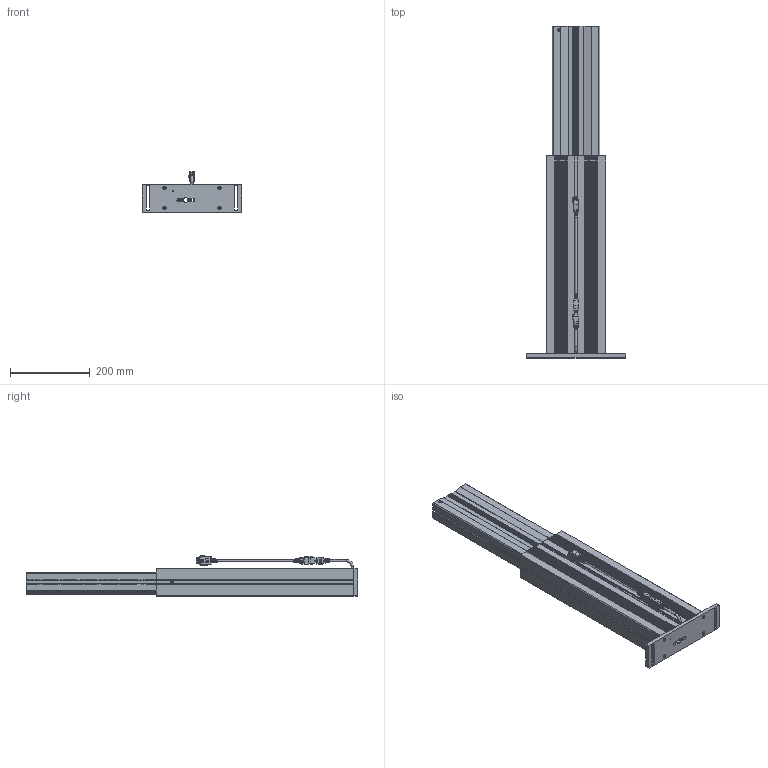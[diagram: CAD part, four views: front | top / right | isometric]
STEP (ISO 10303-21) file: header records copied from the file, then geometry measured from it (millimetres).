
FILE_DESCRIPTION(/* description */ ('Unknown'),/* implementation_level */ '2;1');
FILE_NAME(/* name */ '902.00003_05-Ausgefahren',/* time_stamp */ '2022-01-25T17:51:49+01:00',/* author */ ('Unknown'),/* organization */ ('Unknown'),/* preprocessor_version */ 'ST-DEVELOPER v18.1',/* originating_system */ 'Solid Edge',/* authorisation */ 'Unknown');
FILE_SCHEMA (('AUTOMOTIVE_DESIGN {1 0 10303 214 3 1 1}'));
Products named in the file (12): 902.00003; 126.00138; 119.00315; 119.00314; 142.00166; 124.00201_oa_0; 142.00241; 110.00104_oa_1; 115.00200_oa_2; 124.00151; Kabel Motor Sx; 142.00343
Assembly tree (16 placements, depth 2):
  902.00003
    126.00138
    119.00315
    119.00314
    142.00166  x4
    124.00201_oa_0
    142.00241  x2
    110.00104_oa_1
    115.00200_oa_2
    124.00151
    Kabel Motor Sx
    142.00343  x2
Bounding box: 250 x 830 x 100.17 mm (x, y, z)
Volume: 2210308.1 mm3; surface area: 1072578.1 mm2
Topology: 13 solids, 13 shells, 3370 faces, 9568 edges, 6336 vertices
Faces by surface type: plane 1939, cylinder 1239, torus 101, bspline 73, cone 12, sphere 6
Full cylindrical faces by diameter (mm): 1.5 x6, 1.82 x6, 2.459 x1, 2.7 x6, 3.242 x2, 3.4 x1, 4 x4, 5 x5, 5.5 x4, 6 x3, 7 x2, 8 x2, 8.5 x4, 8.7 x4, 30 x2
Entity records: 128373 total; most frequent: CARTESIAN_POINT 23132, ORIENTED_EDGE 18662, DIRECTION 18138, EDGE_CURVE 9331, VERTEX_POINT 6220, LINE 6102, VECTOR 6102, AXIS2_PLACEMENT_3D 6018
